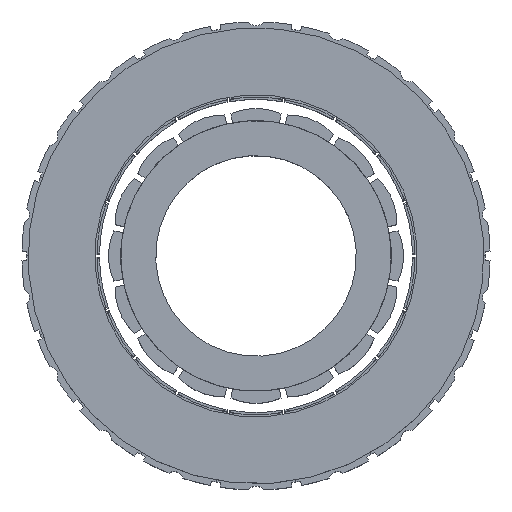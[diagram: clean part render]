
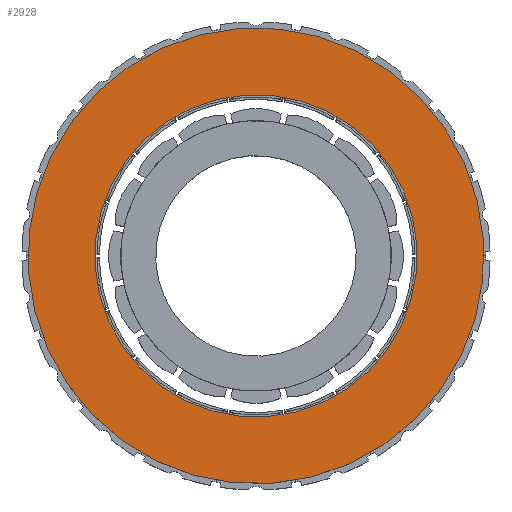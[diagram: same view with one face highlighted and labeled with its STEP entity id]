
A CAD part, top view. The second image highlights one B-rep face of the part: STEP entity #2928.
In plain terms, the highlighted planar face has unit normal (0, 0, 1).
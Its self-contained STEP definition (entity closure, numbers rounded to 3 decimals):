
#88 = CARTESIAN_POINT ( 'NONE',  ( 0., 0., 6.5 ) ) ;
#467 = AXIS2_PLACEMENT_3D ( 'NONE', #5091, #1012, #4353 ) ;
#476 = CARTESIAN_POINT ( 'NONE',  ( 26.5, 0., 6.5 ) ) ;
#477 = EDGE_LOOP ( 'NONE', ( #3458, #3526 ) ) ;
#527 = DIRECTION ( 'NONE',  ( 1., 0., 0. ) ) ;
#794 = VERTEX_POINT ( 'NONE', #3296 ) ;
#938 = DIRECTION ( 'NONE',  ( 1., 0., 0. ) ) ;
#985 = DIRECTION ( 'NONE',  ( 0., 0., 1. ) ) ;
#1012 = DIRECTION ( 'NONE',  ( 0., 0., 1. ) ) ;
#1193 = EDGE_CURVE ( 'NONE', #4080, #5284, #2933, .T. ) ;
#1387 = FACE_BOUND ( 'NONE', #477, .T. ) ;
#1812 = EDGE_CURVE ( 'NONE', #794, #3698, #3015, .T. ) ;
#1861 = CARTESIAN_POINT ( 'NONE',  ( 0., 0., 6.5 ) ) ;
#2003 = CIRCLE ( 'NONE', #3044, 37.5 ) ;
#2370 = EDGE_LOOP ( 'NONE', ( #2719, #5192 ) ) ;
#2620 = CARTESIAN_POINT ( 'NONE',  ( 0., 0., 6.5 ) ) ;
#2655 = AXIS2_PLACEMENT_3D ( 'NONE', #1861, #985, #3903 ) ;
#2719 = ORIENTED_EDGE ( 'NONE', *, *, #1193, .T. ) ;
#2850 = CIRCLE ( 'NONE', #467, 26.5 ) ;
#2928 = ADVANCED_FACE ( 'NONE', ( #3810, #1387 ), #4202, .T. ) ;
#2933 = CIRCLE ( 'NONE', #2655, 37.5 ) ;
#3015 = CIRCLE ( 'NONE', #3875, 26.5 ) ;
#3023 = EDGE_CURVE ( 'NONE', #3698, #794, #2850, .T. ) ;
#3044 = AXIS2_PLACEMENT_3D ( 'NONE', #88, #4322, #938 ) ;
#3207 = CARTESIAN_POINT ( 'NONE',  ( 0., 0., 6.5 ) ) ;
#3296 = CARTESIAN_POINT ( 'NONE',  ( -26.5, 0., 6.5 ) ) ;
#3458 = ORIENTED_EDGE ( 'NONE', *, *, #1812, .F. ) ;
#3526 = ORIENTED_EDGE ( 'NONE', *, *, #3023, .F. ) ;
#3661 = DIRECTION ( 'NONE',  ( 1., 0., 0. ) ) ;
#3682 = CARTESIAN_POINT ( 'NONE',  ( 37.5, 0., 6.5 ) ) ;
#3698 = VERTEX_POINT ( 'NONE', #476 ) ;
#3810 = FACE_OUTER_BOUND ( 'NONE', #2370, .T. ) ;
#3875 = AXIS2_PLACEMENT_3D ( 'NONE', #3207, #4898, #3661 ) ;
#3903 = DIRECTION ( 'NONE',  ( 1., 0., 0. ) ) ;
#4080 = VERTEX_POINT ( 'NONE', #4498 ) ;
#4202 = PLANE ( 'NONE',  #4457 ) ;
#4288 = DIRECTION ( 'NONE',  ( 0., 0., 1. ) ) ;
#4322 = DIRECTION ( 'NONE',  ( 0., 0., 1. ) ) ;
#4353 = DIRECTION ( 'NONE',  ( 1., 0., 0. ) ) ;
#4457 = AXIS2_PLACEMENT_3D ( 'NONE', #2620, #4288, #527 ) ;
#4498 = CARTESIAN_POINT ( 'NONE',  ( -37.5, 0., 6.5 ) ) ;
#4898 = DIRECTION ( 'NONE',  ( 0., 0., 1. ) ) ;
#5091 = CARTESIAN_POINT ( 'NONE',  ( 0., 0., 6.5 ) ) ;
#5192 = ORIENTED_EDGE ( 'NONE', *, *, #5321, .T. ) ;
#5284 = VERTEX_POINT ( 'NONE', #3682 ) ;
#5321 = EDGE_CURVE ( 'NONE', #5284, #4080, #2003, .T. ) ;
